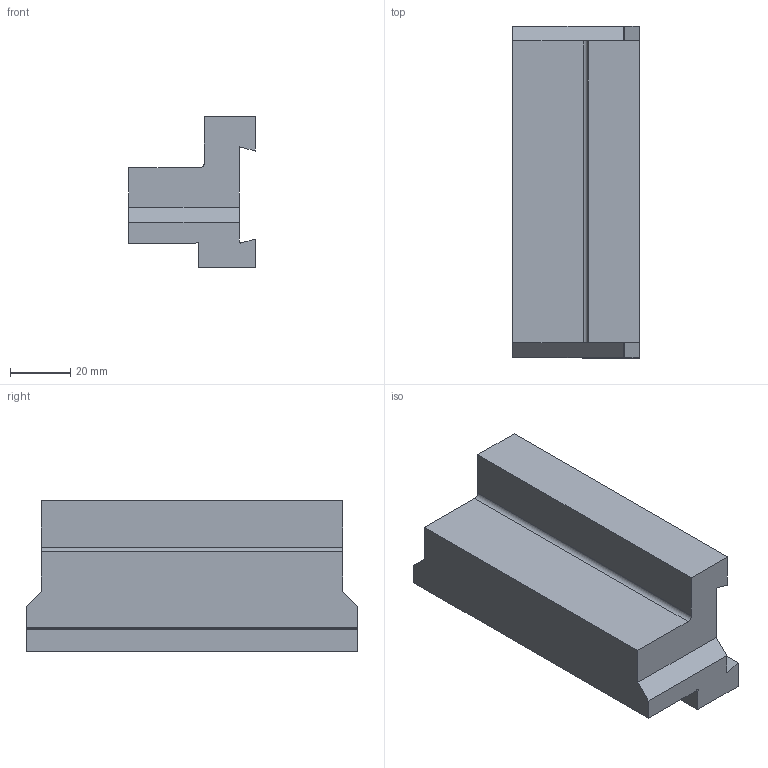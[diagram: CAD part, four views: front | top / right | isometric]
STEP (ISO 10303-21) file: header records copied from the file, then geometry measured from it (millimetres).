
FILE_DESCRIPTION(/* description */ (''),/* implementation_level */ '2;1');
FILE_NAME(/* name */ 'SMBB2532-HAAS.stp',/* time_stamp */ '2021-09-27T17:19:05+09:00',/* author */ (''),/* organization */ (''),/* preprocessor_version */ 'ST-DEVELOPER v16.7',/* originating_system */ 'SIEMENS PLM Software NX 1946',/* authorisation */ '');
FILE_SCHEMA (('AUTOMOTIVE_DESIGN { 1 0 10303 214 3 1 1 1 }'));
Length unit declared in the file: millimetre
Products named in the file (1): user41BC2A232gh2
Bounding box: 42 x 110 x 50 mm (x, y, z)
Volume: 137948.8 mm3; surface area: 23405.7 mm2
Topology: 1 solids, 1 shells, 23 faces, 63 edges, 42 vertices
Faces by surface type: plane 20, cylinder 3
Entity records: 755 total; most frequent: CARTESIAN_POINT 129, ORIENTED_EDGE 126, DIRECTION 117, EDGE_CURVE 63, LINE 57, VECTOR 57, VERTEX_POINT 42, AXIS2_PLACEMENT_3D 30
